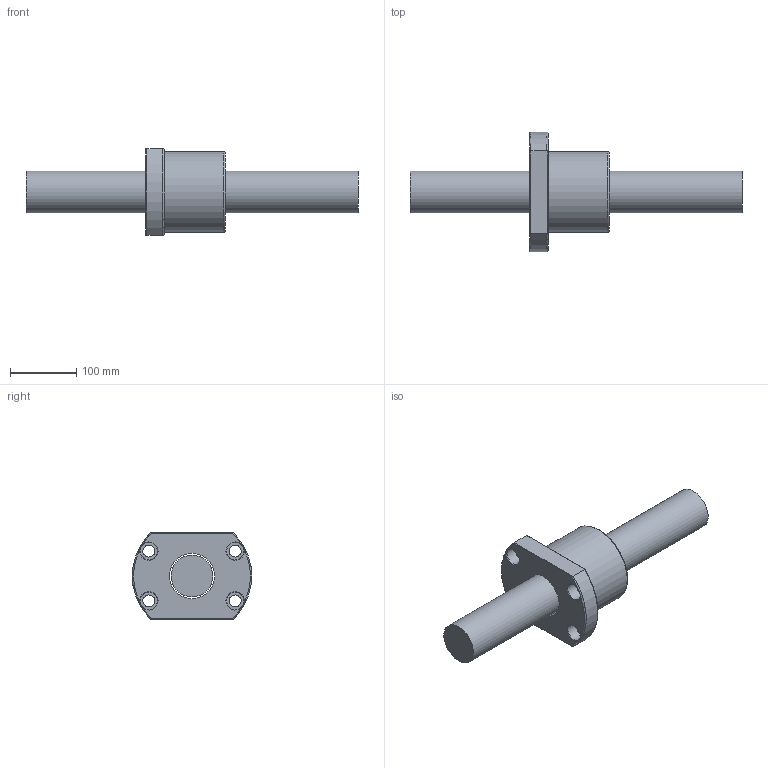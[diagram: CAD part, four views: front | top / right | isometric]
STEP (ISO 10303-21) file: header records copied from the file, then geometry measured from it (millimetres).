
FILE_DESCRIPTION (( 'STEP AP203' ), '1' );
FILE_NAME ('SFV06320D-2.7.step', '2024-05-20T03:40:24', ( '' ), ( '' ), 'SwSTEP 2.0', 'SolidWorks 2022', '' );
FILE_SCHEMA (( 'CONFIG_CONTROL_DESIGN' ));
Length unit declared in the file: millimetre
Products named in the file (1): SFV06320D-2.7
Bounding box: 500 x 180 x 130 mm (x, y, z)
Volume: 2738872.7 mm3; surface area: 221888 mm2
Topology: 2 solids, 2 shells, 56 faces, 146 edges, 95 vertices
Faces by surface type: cylinder 21, plane 16, cone 9, bspline 5, torus 5
Full cylindrical faces by diameter (mm): 4 x1, 7 x6, 18 x4, 26 x4, 63 x1, 68.2 x1, 122 x1
Entity records: 3653 total; most frequent: CARTESIAN_POINT 2566, DIRECTION 196, ORIENTED_EDGE 184, EDGE_CURVE 92, AXIS2_PLACEMENT_3D 91, EDGE_LOOP 86, VERTEX_POINT 72, FACE_OUTER_BOUND 64
